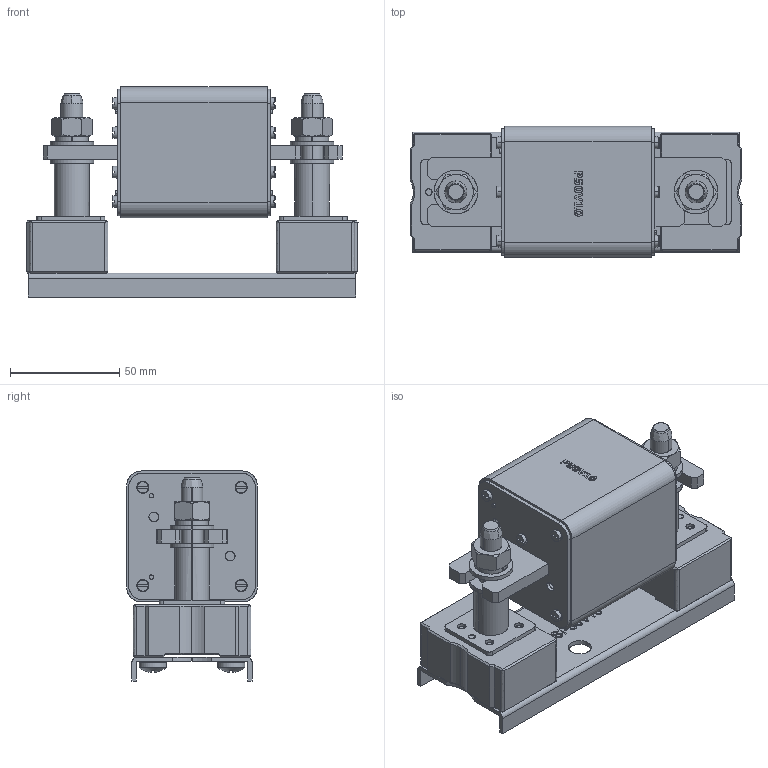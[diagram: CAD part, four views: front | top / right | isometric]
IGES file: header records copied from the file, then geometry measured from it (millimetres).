
Start section: SolidWorks IGES file using analytic representation for surfaces
Global section: file name: U:\14_RD\05_Technical_office\04_Office\Hrdinova\3D modely - IGES\Varius - Ostatní\SP50V10__P50V10.IGS; native system: SolidWorks 2011; preprocessor: SolidWorks 2011; author: adhrja3; date: 170620.142749; units: millimetre
Bounding box: 152 x 60 x 96.2 mm (x, y, z)
Surface area: 111667.7 mm2 (no closed solid volume)
Topology: 0 solids, 0 shells, 1229 faces, 16143 edges, 16119 vertices
Faces by surface type: bspline 698, revolution 531
